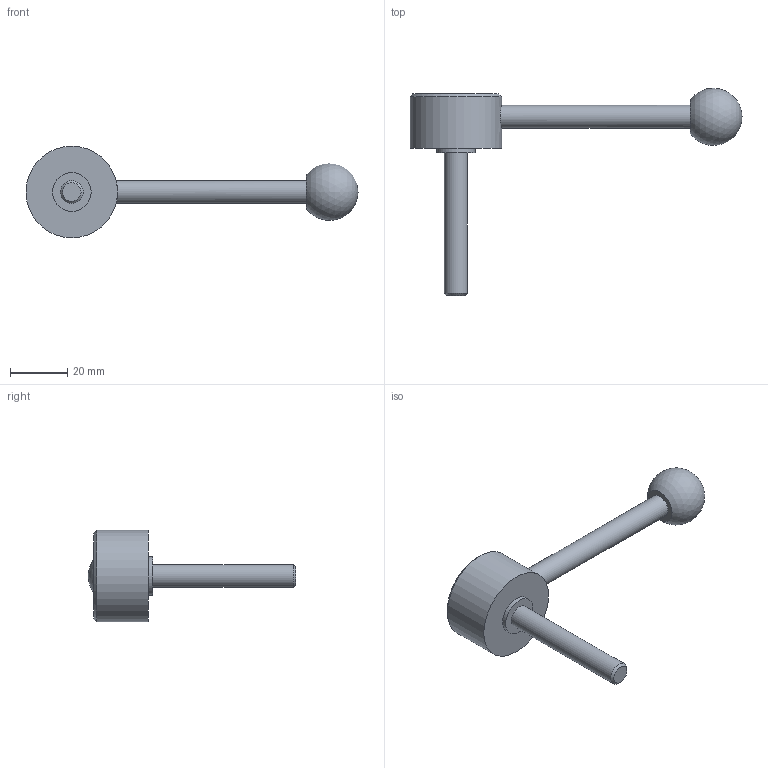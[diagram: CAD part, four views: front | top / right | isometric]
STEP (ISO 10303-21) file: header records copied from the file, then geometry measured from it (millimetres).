
FILE_DESCRIPTION( ( 'STEP AP203' ), '1' );
FILE_NAME( 'C:/Temp/Ganter_Step_05_03_2020/data/2_1/gn_125/gn_125_ms/gn_125_ms_d/Flat Adjustable Lever GN 125-32-M8-50-D.stp', '2020-03-05T11:00:45', ( 'License CC BY-ND 4.0' ), ( 'CADENAS' ), ' ', 'PARTsolutions', ' ' );
FILE_SCHEMA( ( 'CONFIG_CONTROL_DESIGN' ) );
Length unit declared in the file: millimetre
Products named in the file (1): _Flat Adjustable Lever GN 125-32-M8-50-D
Bounding box: 116 x 72.43 x 32 mm (x, y, z)
Volume: 25253 mm3; surface area: 7592.1 mm2
Topology: 1 solids, 1 shells, 14 faces, 23 edges, 15 vertices
Faces by surface type: plane 6, cylinder 5, cone 2, sphere 1
Full cylindrical faces by diameter (mm): 8 x2, 13.5 x1, 22 x1, 32 x1
Entity records: 384 total; most frequent: CARTESIAN_POINT 107, DIRECTION 54, AXIS2_PLACEMENT_3D 27, EDGE_LOOP 26, ORIENTED_EDGE 26, FACE_OUTER_BOUND 19, ADVANCED_FACE 14, VERTEX_POINT 14
